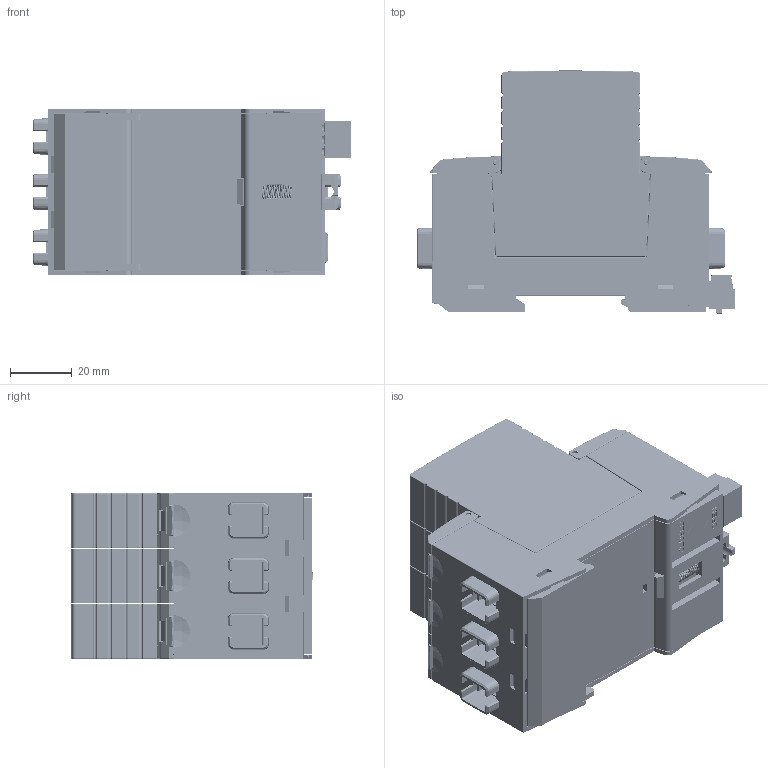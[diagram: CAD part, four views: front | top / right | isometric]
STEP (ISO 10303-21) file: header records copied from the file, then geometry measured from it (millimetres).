
FILE_DESCRIPTION(/* description */ ('Unknown'),/* implementation_level */ '2;1');
FILE_NAME(/* name */ 'SD25TXXXL3',/* time_stamp */ '2023-04-10T08:31:28+08:00',/* author */ ('Unknown'),/* organization */ ('Unknown'),/* preprocessor_version */ 'ST-DEVELOPER v16.7',/* originating_system */ 'Solid Edge',/* authorisation */ 'Unknown');
FILE_SCHEMA (('AUTOMOTIVE_DESIGN {1 0 10303 214 3 1 1}'));
Products named in the file (30): ASM1000000018; ASM1000000017_oa_0; PRT1000000069; PRT1000000080; PRT1000000117; PRT1000000120; PRT1000001237; ASM1000000457_oa_1; PRT1000000127; ASM1000000458_oa_2; PRT1000000079; PRT1000000124; ASM1000000457; PRT1000001242; PRT1000000121; ASM1000000110_oa_3; PRT1000000115; PRT1000000114; PRT1000000092; PRT1000000099; PRT1000001015; ASM1000000172_oa_4; PRT1000000113; ASM1000000262; PRT1000000100; PRT1000000096; ASM1000000110_oa_5; ASM1000000172_oa_6; ASM1000000110_oa_7; ASM1000000172_oa_8
Assembly tree (55 placements, depth 4):
  ASM1000000018
    ASM1000000017_oa_0
      PRT1000000069
      PRT1000000080
      PRT1000000117
      PRT1000000120
      PRT1000001237  x4
      ASM1000000457_oa_1
        PRT1000000127
      ASM1000000458_oa_2
        PRT1000000079
        PRT1000000124  x2
      ASM1000000457  x2
        PRT1000000124
        PRT1000000127
      PRT1000001242
      PRT1000000121
    ASM1000000110_oa_3
      PRT1000000115
      PRT1000000114
      PRT1000000092  x2
      PRT1000000099
      PRT1000001015
      ASM1000000172_oa_4
        PRT1000000113
      ASM1000000262
        PRT1000000100
      PRT1000000096
    ASM1000000110_oa_5
      PRT1000000115
      PRT1000000114
      PRT1000000092  x2
      PRT1000000099
      PRT1000001015
      ASM1000000172_oa_6
        PRT1000000113
      ASM1000000262
        PRT1000000100
      PRT1000000096
    ASM1000000110_oa_7
      PRT1000000115
      PRT1000000114
      PRT1000000092  x2
      PRT1000000099
      PRT1000001015
      ASM1000000172_oa_8
        PRT1000000113
      ASM1000000262
        PRT1000000100
      PRT1000000096
Bounding box: 103.4 x 78.85 x 54 mm (x, y, z)
Volume: 101044.7 mm3; surface area: 176688.3 mm2
Topology: 45 solids, 45 shells, 8787 faces, 22994 edges, 14349 vertices
Faces by surface type: plane 5168, cylinder 2222, torus 646, sphere 362, bspline 333, cone 56
Full cylindrical faces by diameter (mm): 0.3 x12, 1.5 x15, 1.6 x3, 1.8 x18, 2 x12, 2.1 x8, 2.2 x3, 2.3 x3, 2.4 x3, 2.5 x15, 2.8 x3, 2.9 x3, 5 x4, 6.8 x4, 7.5 x6, 9.5 x4
Entity records: 161022 total; most frequent: CARTESIAN_POINT 37571, ORIENTED_EDGE 25932, DIRECTION 24209, EDGE_CURVE 12966, LINE 10159, VECTOR 10159, VERTEX_POINT 8328, AXIS2_PLACEMENT_3D 7025
